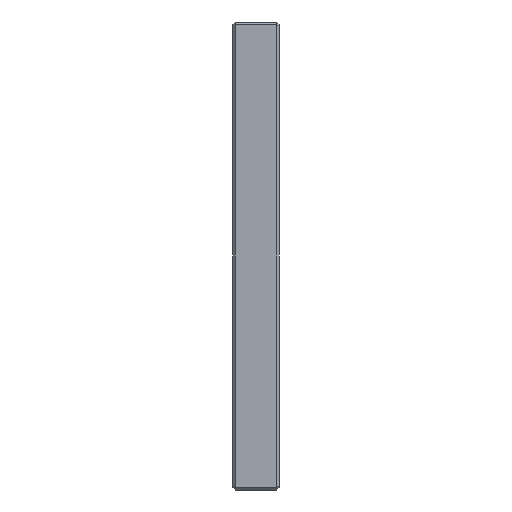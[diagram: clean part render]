
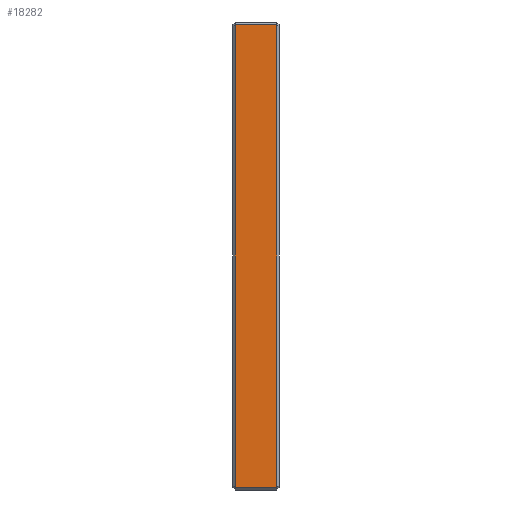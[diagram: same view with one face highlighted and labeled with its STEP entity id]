
A CAD part, left-side view. The second image highlights one B-rep face of the part: STEP entity #18282.
In plain terms, the highlighted planar face has unit normal (-1, 0, 0).
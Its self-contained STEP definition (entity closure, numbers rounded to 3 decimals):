
#4461=DIRECTION('',(0.,0.,-1.));
#4462=VECTOR('',#4461,494.);
#4463=CARTESIAN_POINT('',(-500.,-22.,247.));
#4464=LINE('',#4463,#4462);
#4465=DIRECTION('',(0.,-1.,0.));
#4466=VECTOR('',#4465,44.);
#4467=CARTESIAN_POINT('',(-500.,22.,-247.));
#4468=LINE('',#4467,#4466);
#4469=DIRECTION('',(0.,0.,1.));
#4470=VECTOR('',#4469,494.);
#4471=CARTESIAN_POINT('',(-500.,22.,-247.));
#4472=LINE('',#4471,#4470);
#4473=DIRECTION('',(0.,-1.,0.));
#4474=VECTOR('',#4473,44.);
#4475=CARTESIAN_POINT('',(-500.,22.,247.));
#4476=LINE('',#4475,#4474);
#12785=CARTESIAN_POINT('',(-500.,-22.,247.));
#12786=VERTEX_POINT('',#12785);
#12789=CARTESIAN_POINT('',(-500.,-22.,-247.));
#12790=VERTEX_POINT('',#12789);
#12797=CARTESIAN_POINT('',(-500.,22.,-247.));
#12798=CARTESIAN_POINT('',(-500.,22.,247.));
#12799=VERTEX_POINT('',#12797);
#12800=VERTEX_POINT('',#12798);
#18268=CARTESIAN_POINT('',(-500.,-25.,-250.));
#18269=DIRECTION('',(-1.,0.,0.));
#18270=DIRECTION('',(0.,0.,1.));
#18271=AXIS2_PLACEMENT_3D('',#18268,#18269,#18270);
#18272=PLANE('',#18271);
#18274=ORIENTED_EDGE('',*,*,#18273,.T.);
#18276=ORIENTED_EDGE('',*,*,#18275,.F.);
#18277=ORIENTED_EDGE('',*,*,#18258,.T.);
#18279=ORIENTED_EDGE('',*,*,#18278,.T.);
#18280=EDGE_LOOP('',(#18274,#18276,#18277,#18279));
#18281=FACE_OUTER_BOUND('',#18280,.F.);
#18282=ADVANCED_FACE('',(#18281),#18272,.T.);
#18258=EDGE_CURVE('',#12799,#12800,#4472,.T.);
#18273=EDGE_CURVE('',#12786,#12790,#4464,.T.);
#18275=EDGE_CURVE('',#12799,#12790,#4468,.T.);
#18278=EDGE_CURVE('',#12800,#12786,#4476,.T.);
